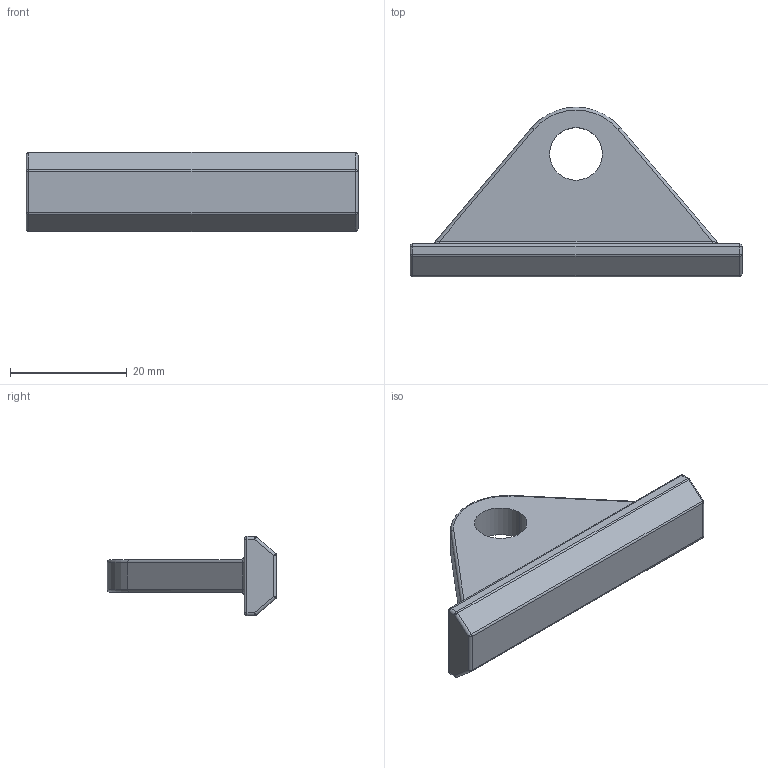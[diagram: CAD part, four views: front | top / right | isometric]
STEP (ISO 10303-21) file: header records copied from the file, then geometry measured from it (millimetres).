
FILE_DESCRIPTION (( 'STEP AP214' ), '1' );
FILE_NAME ('1.3054 Liukukannatin.STEP', '2025-09-09T10:26:36', ( '' ), ( '' ), 'SwSTEP 2.0', 'SolidWorks 2025', '' );
FILE_SCHEMA (( 'AUTOMOTIVE_DESIGN' ));
Length unit declared in the file: millimetre
Products named in the file (1): 1.3054 Liukukannatin
Bounding box: 56.8 x 29 x 13.6 mm (x, y, z)
Volume: 7102.9 mm3; surface area: 3489.7 mm2
Topology: 1 solids, 1 shells, 62 faces, 133 edges, 66 vertices
Faces by surface type: cylinder 30, sphere 14, plane 12, bspline 4, torus 2
Entity records: 1700 total; most frequent: CARTESIAN_POINT 394, DIRECTION 295, ORIENTED_EDGE 250, EDGE_CURVE 125, AXIS2_PLACEMENT_3D 119, VERTEX_POINT 66, EDGE_LOOP 65, FACE_OUTER_BOUND 62
